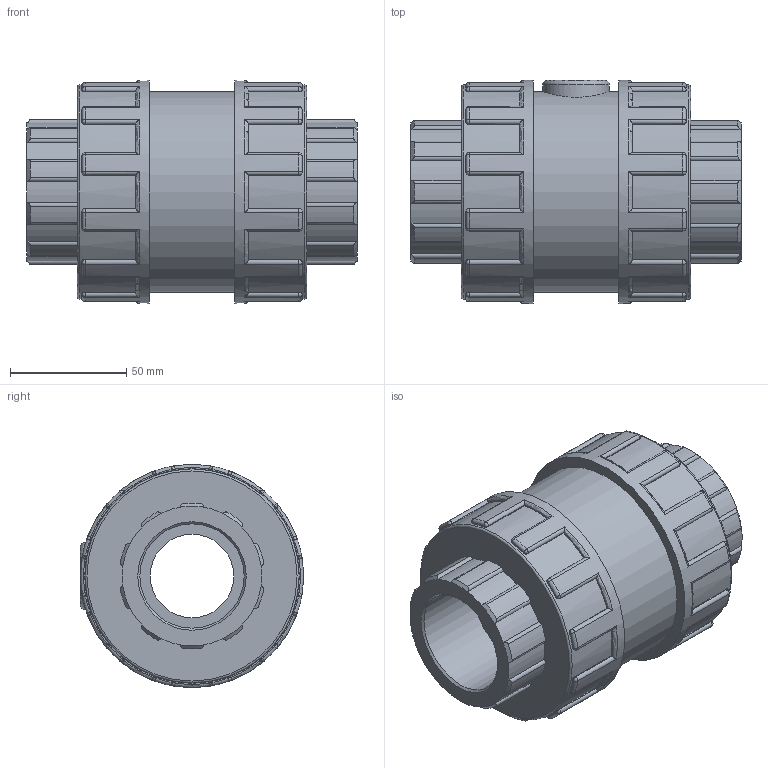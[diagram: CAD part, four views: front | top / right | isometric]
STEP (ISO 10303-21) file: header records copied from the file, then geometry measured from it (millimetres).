
FILE_DESCRIPTION(/* description */ ('PLASSON CHECK VALVE THR 1 1/2" PTFE COATED SPRING + EPDM O-RING'),/* implementation_level */ '2;1');
FILE_NAME(/* name */ 'C:\Dropbox\KIMPROJECTS-Inventor\99-16-3568-Processing\PVC Catalog 2017\110810 - 110610 110910 - 110010\11081015.ipt.stp',/* time_stamp */ '2017-12-07T16:08:10+02:00',/* author */ ('KIM'),/* organization */ (''),/* preprocessor_version */ 'ST-DEVELOPER v15.6',/* originating_system */ 'Autodesk Inventor 2015',/* authorisation */ '');
FILE_SCHEMA (('AUTOMOTIVE_DESIGN { 1 0 10303 214 3 1 1 }'));
Length unit declared in the file: millimetre
Products named in the file (1): 11081015
Bounding box: 142 x 96 x 96 mm (x, y, z)
Volume: 597682.7 mm3; surface area: 71332.6 mm2
Topology: 1 solids, 1 shells, 411 faces, 1021 edges, 618 vertices
Faces by surface type: cylinder 185, plane 105, torus 51, sphere 48, cone 22
Full cylindrical faces by diameter (mm): 28.8 x1, 35.876 x1, 44.845 x2, 86.4 x1, 92.16 x2, 96 x2
Entity records: 13394 total; most frequent: CARTESIAN_POINT 3615, DIRECTION 2180, ORIENTED_EDGE 1998, EDGE_CURVE 999, AXIS2_PLACEMENT_3D 906, VERTEX_POINT 611, CIRCLE 494, EDGE_LOOP 434
